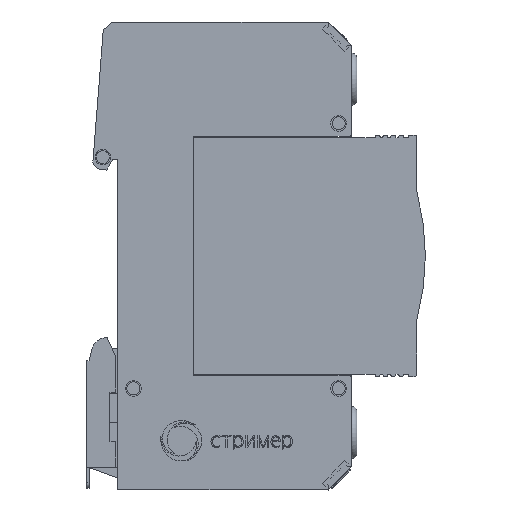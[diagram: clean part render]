
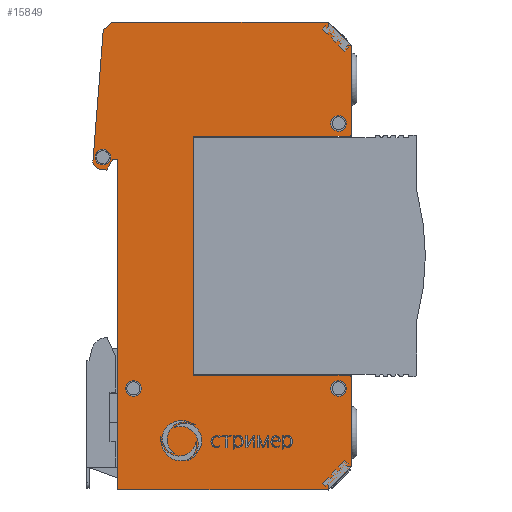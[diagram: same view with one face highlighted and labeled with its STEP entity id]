
A CAD part, front view. The second image highlights one B-rep face of the part: STEP entity #15849.
In plain terms, the highlighted planar face has unit normal (0, -1, 0).
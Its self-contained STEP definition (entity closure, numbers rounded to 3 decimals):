
#13777=CARTESIAN_POINT('',(30.,-9.,-23.));
#13778=VERTEX_POINT('',#13777);
#13816=CARTESIAN_POINT('',(0.,-9.,-23.));
#13817=VERTEX_POINT('',#13816);
#13824=CARTESIAN_POINT('',(30.,-9.,-23.));
#13825=DIRECTION('',(-1.,0.,0.));
#13826=VECTOR('',#13825,30.);
#13827=LINE('',#13824,#13826);
#13828=EDGE_CURVE('',#13778,#13817,#13827,.T.);
#13872=CARTESIAN_POINT('',(30.,-9.,23.));
#13873=VERTEX_POINT('',#13872);
#13880=CARTESIAN_POINT('',(0.,-9.,23.));
#13881=VERTEX_POINT('',#13880);
#13882=CARTESIAN_POINT('',(0.,-9.,23.));
#13883=DIRECTION('',(1.,0.,0.));
#13884=VECTOR('',#13883,30.);
#13885=LINE('',#13882,#13884);
#13886=EDGE_CURVE('',#13881,#13873,#13885,.T.);
#14011=CARTESIAN_POINT('',(-14.5,-9.,-45.));
#14012=VERTEX_POINT('',#14011);
#14013=CARTESIAN_POINT('',(26.,-9.,-45.));
#14014=VERTEX_POINT('',#14013);
#14015=CARTESIAN_POINT('',(-14.5,-9.,-45.));
#14016=DIRECTION('',(1.,0.,-0.));
#14017=VECTOR('',#14016,40.5);
#14018=LINE('',#14015,#14017);
#14019=EDGE_CURVE('',#14012,#14014,#14018,.T.);
#14681=CARTESIAN_POINT('',(-14.5,-9.,18.5));
#14682=VERTEX_POINT('',#14681);
#14683=CARTESIAN_POINT('',(-14.5,-9.,18.5));
#14684=DIRECTION('',(0.,0.,-1.));
#14685=VECTOR('',#14684,63.5);
#14686=LINE('',#14683,#14685);
#14687=EDGE_CURVE('',#14682,#14012,#14686,.T.);
#14882=CARTESIAN_POINT('',(-15.5,-9.,45.));
#14883=VERTEX_POINT('',#14882);
#14884=CARTESIAN_POINT('',(-17.29,-9.,43.498));
#14885=VERTEX_POINT('',#14884);
#14886=CARTESIAN_POINT('',(-15.5,-9.,45.));
#14887=DIRECTION('',(-0.766,0.,-0.643));
#14888=VECTOR('',#14887,2.337);
#14889=LINE('',#14886,#14888);
#14890=EDGE_CURVE('',#14883,#14885,#14889,.T.);
#14922=CARTESIAN_POINT('',(-19.273,-9.,18.306));
#14923=VERTEX_POINT('',#14922);
#14924=CARTESIAN_POINT('',(-17.29,-9.,43.498));
#14925=DIRECTION('',(-0.078,0.,-0.997));
#14926=VECTOR('',#14925,25.27);
#14927=LINE('',#14924,#14926);
#14928=EDGE_CURVE('',#14885,#14923,#14927,.T.);
#14953=CARTESIAN_POINT('',(-17.999,-9.,16.704));
#14954=VERTEX_POINT('',#14953);
#14955=CARTESIAN_POINT('',(-17.777,-9.,18.188));
#14956=DIRECTION('',(0.,-1.,0.));
#14957=DIRECTION('',(0.,0.,1.));
#14958=AXIS2_PLACEMENT_3D('',#14955,#14956,#14957);
#14959=CIRCLE('',#14958,1.5);
#14960=EDGE_CURVE('',#14923,#14954,#14959,.T.);
#14986=CARTESIAN_POINT('',(-16.632,-9.,16.5));
#14987=VERTEX_POINT('',#14986);
#14988=CARTESIAN_POINT('',(-17.999,-9.,16.704));
#14989=DIRECTION('',(0.989,0.,-0.148));
#14990=VECTOR('',#14989,1.383);
#14991=LINE('',#14988,#14990);
#14992=EDGE_CURVE('',#14954,#14987,#14991,.T.);
#15017=CARTESIAN_POINT('',(-15.5,-9.,18.5));
#15018=VERTEX_POINT('',#15017);
#15019=CARTESIAN_POINT('',(-16.632,-9.,16.5));
#15020=DIRECTION('',(0.492,0.,0.87));
#15021=VECTOR('',#15020,2.298);
#15022=LINE('',#15019,#15021);
#15023=EDGE_CURVE('',#14987,#15018,#15022,.T.);
#15048=CARTESIAN_POINT('',(-15.5,-9.,18.5));
#15049=DIRECTION('',(1.,0.,0.));
#15050=VECTOR('',#15049,1.);
#15051=LINE('',#15048,#15050);
#15052=EDGE_CURVE('',#15018,#14682,#15051,.T.);
#15070=CARTESIAN_POINT('',(30.5,-9.,-40.5));
#15071=VERTEX_POINT('',#15070);
#15072=CARTESIAN_POINT('',(26.,-9.,-45.));
#15073=DIRECTION('',(0.707,0.,0.707));
#15074=VECTOR('',#15073,6.364);
#15075=LINE('',#15072,#15074);
#15076=EDGE_CURVE('',#14014,#15071,#15075,.T.);
#15125=CARTESIAN_POINT('',(30.5,-9.,-23.5));
#15126=VERTEX_POINT('',#15125);
#15133=CARTESIAN_POINT('',(30.5,-9.,-40.5));
#15134=DIRECTION('',(0.,0.,1.));
#15135=VECTOR('',#15134,17.);
#15136=LINE('',#15133,#15135);
#15137=EDGE_CURVE('',#15071,#15126,#15136,.T.);
#15183=CARTESIAN_POINT('',(30.,-9.,-23.5));
#15184=DIRECTION('',(0.,-1.,0.));
#15185=DIRECTION('',(0.,0.,1.));
#15186=AXIS2_PLACEMENT_3D('',#15183,#15184,#15185);
#15187=CIRCLE('',#15186,0.5);
#15188=EDGE_CURVE('',#15126,#13778,#15187,.T.);
#15199=CARTESIAN_POINT('',(0.,-9.,-23.));
#15200=DIRECTION('',(0.,0.,1.));
#15201=VECTOR('',#15200,46.);
#15202=LINE('',#15199,#15201);
#15203=EDGE_CURVE('',#13817,#13881,#15202,.T.);
#15230=CARTESIAN_POINT('',(30.5,-9.,23.5));
#15231=VERTEX_POINT('',#15230);
#15238=CARTESIAN_POINT('',(30.,-9.,23.5));
#15239=DIRECTION('',(0.,-1.,0.));
#15240=DIRECTION('',(0.,0.,1.));
#15241=AXIS2_PLACEMENT_3D('',#15238,#15239,#15240);
#15242=CIRCLE('',#15241,0.5);
#15243=EDGE_CURVE('',#13873,#15231,#15242,.T.);
#15271=CARTESIAN_POINT('',(30.5,-9.,40.5));
#15272=VERTEX_POINT('',#15271);
#15279=CARTESIAN_POINT('',(30.5,-9.,23.5));
#15280=DIRECTION('',(0.,0.,1.));
#15281=VECTOR('',#15280,17.);
#15282=LINE('',#15279,#15281);
#15283=EDGE_CURVE('',#15231,#15272,#15282,.T.);
#15328=CARTESIAN_POINT('',(26.,-9.,45.));
#15329=VERTEX_POINT('',#15328);
#15330=CARTESIAN_POINT('',(30.5,-9.,40.5));
#15331=DIRECTION('',(-0.707,0.,0.707));
#15332=VECTOR('',#15331,6.364);
#15333=LINE('',#15330,#15332);
#15334=EDGE_CURVE('',#15272,#15329,#15333,.T.);
#15359=CARTESIAN_POINT('',(-17.38,-9.,17.5));
#15360=VERTEX_POINT('',#15359);
#15369=CARTESIAN_POINT('',(-18.88,-9.,19.));
#15370=VERTEX_POINT('',#15369);
#15371=CARTESIAN_POINT('',(-17.38,-9.,19.));
#15372=DIRECTION('',(0.,-1.,0.));
#15373=DIRECTION('',(-1.,0.,0.));
#15374=AXIS2_PLACEMENT_3D('',#15371,#15372,#15373);
#15375=CIRCLE('',#15374,1.5);
#15376=EDGE_CURVE('',#15360,#15370,#15375,.T.);
#15401=CARTESIAN_POINT('',(28.,-9.,24.));
#15402=VERTEX_POINT('',#15401);
#15411=CARTESIAN_POINT('',(26.5,-9.,25.5));
#15412=VERTEX_POINT('',#15411);
#15413=CARTESIAN_POINT('',(28.,-9.,25.5));
#15414=DIRECTION('',(0.,-1.,0.));
#15415=DIRECTION('',(-1.,0.,0.));
#15416=AXIS2_PLACEMENT_3D('',#15413,#15414,#15415);
#15417=CIRCLE('',#15416,1.5);
#15418=EDGE_CURVE('',#15402,#15412,#15417,.T.);
#15479=CARTESIAN_POINT('',(-11.5,-9.,-27.));
#15480=VERTEX_POINT('',#15479);
#15489=CARTESIAN_POINT('',(-13.,-9.,-25.5));
#15490=VERTEX_POINT('',#15489);
#15491=CARTESIAN_POINT('',(-11.5,-9.,-25.5));
#15492=DIRECTION('',(0.,-1.,0.));
#15493=DIRECTION('',(-1.,0.,0.));
#15494=AXIS2_PLACEMENT_3D('',#15491,#15492,#15493);
#15495=CIRCLE('',#15494,1.5);
#15496=EDGE_CURVE('',#15480,#15490,#15495,.T.);
#15521=CARTESIAN_POINT('',(28.,-9.,-27.));
#15522=VERTEX_POINT('',#15521);
#15531=CARTESIAN_POINT('',(26.5,-9.,-25.5));
#15532=VERTEX_POINT('',#15531);
#15533=CARTESIAN_POINT('',(28.,-9.,-25.5));
#15534=DIRECTION('',(0.,-1.,0.));
#15535=DIRECTION('',(-1.,0.,0.));
#15536=AXIS2_PLACEMENT_3D('',#15533,#15534,#15535);
#15537=CIRCLE('',#15536,1.5);
#15538=EDGE_CURVE('',#15522,#15532,#15537,.T.);
#15701=CARTESIAN_POINT('',(26.,-9.,45.));
#15702=DIRECTION('',(-1.,0.,0.));
#15703=VECTOR('',#15702,41.5);
#15704=LINE('',#15701,#15703);
#15705=EDGE_CURVE('',#15329,#14883,#15704,.T.);
#15784=CARTESIAN_POINT('',(0.,-9.,0.));
#15785=DIRECTION('',(0.,-1.,0.));
#15786=DIRECTION('',(0.,0.,1.));
#15787=AXIS2_PLACEMENT_3D('',#15784,#15785,#15786);
#15788=PLANE('',#15787);
#15789=ORIENTED_EDGE('',*,*,#15538,.F.);
#15790=CARTESIAN_POINT('',(28.,-9.,-25.5));
#15791=DIRECTION('',(0.,-1.,0.));
#15792=DIRECTION('',(-1.,0.,0.));
#15793=AXIS2_PLACEMENT_3D('',#15790,#15791,#15792);
#15794=CIRCLE('',#15793,1.5);
#15795=EDGE_CURVE('',#15532,#15522,#15794,.T.);
#15796=ORIENTED_EDGE('',*,*,#15795,.F.);
#15797=EDGE_LOOP('',(#15789,#15796));
#15798=FACE_BOUND('',#15797,.T.);
#15799=ORIENTED_EDGE('',*,*,#15496,.F.);
#15800=CARTESIAN_POINT('',(-11.5,-9.,-25.5));
#15801=DIRECTION('',(0.,-1.,0.));
#15802=DIRECTION('',(-1.,0.,0.));
#15803=AXIS2_PLACEMENT_3D('',#15800,#15801,#15802);
#15804=CIRCLE('',#15803,1.5);
#15805=EDGE_CURVE('',#15490,#15480,#15804,.T.);
#15806=ORIENTED_EDGE('',*,*,#15805,.F.);
#15807=EDGE_LOOP('',(#15799,#15806));
#15808=FACE_BOUND('',#15807,.T.);
#15809=ORIENTED_EDGE('',*,*,#15418,.F.);
#15810=CARTESIAN_POINT('',(28.,-9.,25.5));
#15811=DIRECTION('',(0.,-1.,0.));
#15812=DIRECTION('',(-1.,0.,0.));
#15813=AXIS2_PLACEMENT_3D('',#15810,#15811,#15812);
#15814=CIRCLE('',#15813,1.5);
#15815=EDGE_CURVE('',#15412,#15402,#15814,.T.);
#15816=ORIENTED_EDGE('',*,*,#15815,.F.);
#15817=EDGE_LOOP('',(#15809,#15816));
#15818=FACE_BOUND('',#15817,.T.);
#15819=ORIENTED_EDGE('',*,*,#15376,.F.);
#15820=CARTESIAN_POINT('',(-17.38,-9.,19.));
#15821=DIRECTION('',(0.,-1.,0.));
#15822=DIRECTION('',(-1.,0.,0.));
#15823=AXIS2_PLACEMENT_3D('',#15820,#15821,#15822);
#15824=CIRCLE('',#15823,1.5);
#15825=EDGE_CURVE('',#15370,#15360,#15824,.T.);
#15826=ORIENTED_EDGE('',*,*,#15825,.F.);
#15827=EDGE_LOOP('',(#15819,#15826));
#15828=FACE_BOUND('',#15827,.T.);
#15829=ORIENTED_EDGE('',*,*,#14890,.T.);
#15830=ORIENTED_EDGE('',*,*,#14928,.T.);
#15831=ORIENTED_EDGE('',*,*,#14960,.T.);
#15832=ORIENTED_EDGE('',*,*,#14992,.T.);
#15833=ORIENTED_EDGE('',*,*,#15023,.T.);
#15834=ORIENTED_EDGE('',*,*,#15052,.T.);
#15835=ORIENTED_EDGE('',*,*,#14687,.T.);
#15836=ORIENTED_EDGE('',*,*,#14019,.T.);
#15837=ORIENTED_EDGE('',*,*,#15076,.T.);
#15838=ORIENTED_EDGE('',*,*,#15137,.T.);
#15839=ORIENTED_EDGE('',*,*,#15188,.T.);
#15840=ORIENTED_EDGE('',*,*,#13828,.T.);
#15841=ORIENTED_EDGE('',*,*,#15203,.T.);
#15842=ORIENTED_EDGE('',*,*,#13886,.T.);
#15843=ORIENTED_EDGE('',*,*,#15243,.T.);
#15844=ORIENTED_EDGE('',*,*,#15283,.T.);
#15845=ORIENTED_EDGE('',*,*,#15334,.T.);
#15846=ORIENTED_EDGE('',*,*,#15705,.T.);
#15847=EDGE_LOOP('',(#15829,#15830,#15831,#15832,#15833,#15834,#15835,#15836,#15837,#15838,#15839,#15840,#15841,#15842,#15843,#15844,#15845,#15846));
#15848=FACE_BOUND('',#15847,.T.);
#15849=ADVANCED_FACE('',(#15798,#15808,#15818,#15828,#15848),#15788,.T.);
